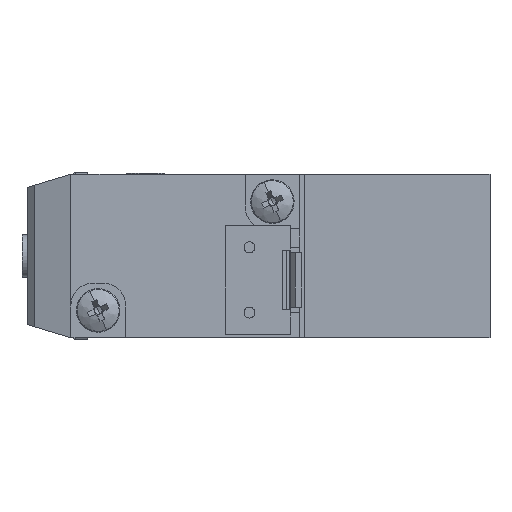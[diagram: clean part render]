
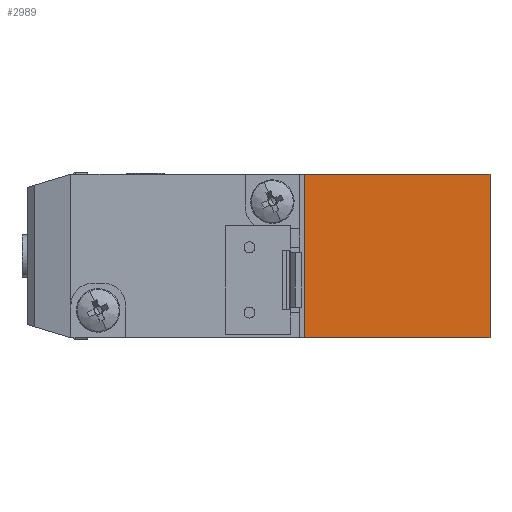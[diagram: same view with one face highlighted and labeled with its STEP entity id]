
A CAD part, left-side view. The second image highlights one B-rep face of the part: STEP entity #2989.
In plain terms, the highlighted planar face has unit normal (-1, 0, 0).
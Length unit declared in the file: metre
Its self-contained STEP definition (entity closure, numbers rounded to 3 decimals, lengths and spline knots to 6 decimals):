
#247 = LINE ( 'NONE', #1633, #4869 ) ;
#459 = VERTEX_POINT ( 'NONE', #10695 ) ;
#605 = VERTEX_POINT ( 'NONE', #4259 ) ;
#1523 = DIRECTION ( 'NONE',  ( 0., 0., -1. ) ) ;
#1633 = CARTESIAN_POINT ( 'NONE',  ( -0.015, -0.0085, 0. ) ) ;
#2097 = CARTESIAN_POINT ( 'NONE',  ( -0.015, 0.0085, 0. ) ) ;
#2152 = EDGE_CURVE ( 'NONE', #459, #605, #6006, .T. ) ;
#2989 = ADVANCED_FACE ( 'NONE', ( #3308 ), #6427, .T. ) ;
#3017 = VERTEX_POINT ( 'NONE', #4248 ) ;
#3204 = EDGE_LOOP ( 'NONE', ( #6710, #11400, #11148, #6026 ) ) ;
#3308 = FACE_OUTER_BOUND ( 'NONE', #3204, .T. ) ;
#3883 = CARTESIAN_POINT ( 'NONE',  ( -0.015, -0.0085, -0.0075 ) ) ;
#4248 = CARTESIAN_POINT ( 'NONE',  ( -0.015, -0.0085, 0.0075 ) ) ;
#4259 = CARTESIAN_POINT ( 'NONE',  ( -0.015, 0.0085, -0.0075 ) ) ;
#4869 = VECTOR ( 'NONE', #1523, 1. ) ;
#5453 = EDGE_CURVE ( 'NONE', #3017, #459, #247, .T. ) ;
#5734 = LINE ( 'NONE', #5917, #8462 ) ;
#5917 = CARTESIAN_POINT ( 'NONE',  ( -0.015, 0., 0.0075 ) ) ;
#6006 = LINE ( 'NONE', #9507, #8161 ) ;
#6026 = ORIENTED_EDGE ( 'NONE', *, *, #6471, .T. ) ;
#6054 = DIRECTION ( 'NONE',  ( 0., 1., 0. ) ) ;
#6380 = DIRECTION ( 'NONE',  ( 0., 0., 1. ) ) ;
#6389 = DIRECTION ( 'NONE',  ( -1., 0., 0. ) ) ;
#6427 = PLANE ( 'NONE',  #9709 ) ;
#6471 = EDGE_CURVE ( 'NONE', #3017, #10534, #5734, .T. ) ;
#6710 = ORIENTED_EDGE ( 'NONE', *, *, #11513, .F. ) ;
#8161 = VECTOR ( 'NONE', #9942, 1. ) ;
#8462 = VECTOR ( 'NONE', #6054, 1. ) ;
#8590 = DIRECTION ( 'NONE',  ( 0., 0., 1. ) ) ;
#8846 = CARTESIAN_POINT ( 'NONE',  ( -0.015, 0.0085, 0.0075 ) ) ;
#9507 = CARTESIAN_POINT ( 'NONE',  ( -0.015, 0., -0.0075 ) ) ;
#9709 = AXIS2_PLACEMENT_3D ( 'NONE', #3883, #6389, #6380 ) ;
#9942 = DIRECTION ( 'NONE',  ( 0., 1., 0. ) ) ;
#10534 = VERTEX_POINT ( 'NONE', #8846 ) ;
#10695 = CARTESIAN_POINT ( 'NONE',  ( -0.015, -0.0085, -0.0075 ) ) ;
#10761 = LINE ( 'NONE', #2097, #11330 ) ;
#11148 = ORIENTED_EDGE ( 'NONE', *, *, #5453, .F. ) ;
#11330 = VECTOR ( 'NONE', #8590, 1. ) ;
#11400 = ORIENTED_EDGE ( 'NONE', *, *, #2152, .F. ) ;
#11513 = EDGE_CURVE ( 'NONE', #605, #10534, #10761, .T. ) ;
